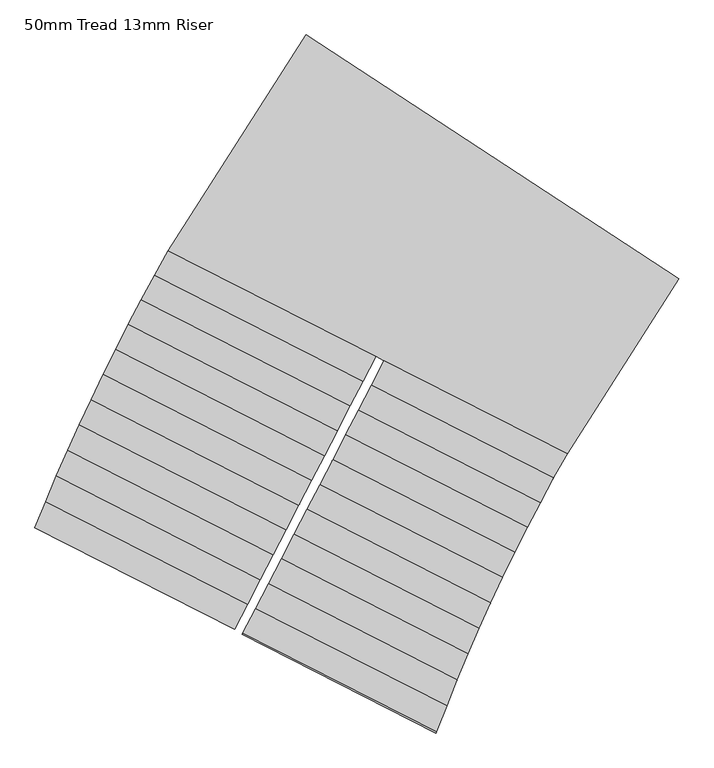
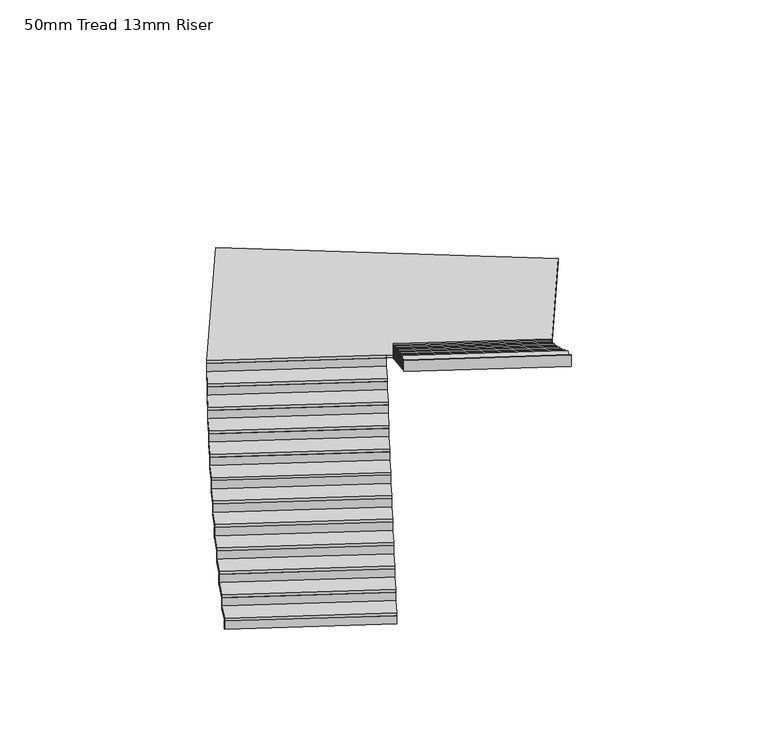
"""IFC4 building model written with IfcOpenShell, lengths in millimetres: stair flight geometry, 50mm Tread 13mm Riser."""

import ifcopenshell
import ifcopenshell.guid

model = None  # the IFC model being written
_history = None  # IfcOwnerHistory: only IFC2X3 demands one
_inside = {}  # id of a spatial element -> (the spatial element, [elements in it])
_under = {}  # id of a project, library or spatial element -> (it, [spatial elements below it])
_declared = {}  # id of a project -> (the project, [libraries it declares])
_typed = {}  # id of a type object -> (the type object, [elements of that type])
_made_of = {}  # id of a material, layer set ... -> (it, [elements and type objects made of it])


def new_model(schema):
    """Start an empty IFC model of exactly this schema.

    Asked for "IFC4X3", IfcOpenShell would pick the latest addendum, in which some entities
    have other attributes; the version numbers below select the first issue.
    IFC2X3 requires an IfcOwnerHistory on every rooted entity: one is made here for all.
    """
    global model, _history
    if schema == "IFC4X3":
        model = ifcopenshell.file(schema_version=(4, 3, 0, 0))
    else:
        model = ifcopenshell.file(schema=schema)
    _inside.clear()
    _under.clear()
    _declared.clear()
    _typed.clear()
    _made_of.clear()
    _history = None
    if model.schema == "IFC2X3":
        org = make("IfcOrganization", Name="unknown")
        user = make(
            "IfcPersonAndOrganization",
            ThePerson=make("IfcPerson", FamilyName="unknown"),
            TheOrganization=org,
        )
        app = make(
            "IfcApplication",
            ApplicationDeveloper=org,
            Version="unknown",
            ApplicationFullName="unknown",
            ApplicationIdentifier="unknown",
        )
        _history = make(
            "IfcOwnerHistory",
            OwningUser=user,
            OwningApplication=app,
            ChangeAction="ADDED",
            CreationDate=0,
        )
    return model


def make(cls, **values):
    """One entity of the class cls with the attributes given. An attribute that is None is left unset."""
    return model.create_entity(
        cls, **{name: value for name, value in values.items() if value is not None}
    )


def rooted(cls, **values):
    """An entity with a GlobalId (a new one), such as an element, a storey or a relation."""
    return make(cls, GlobalId=ifcopenshell.guid.new(), OwnerHistory=_history, **values)


def si_unit(unit_type, name, prefix=None):
    """IfcSIUnit, for example si_unit("LENGTHUNIT", "METRE", prefix="MILLI")."""
    return make("IfcSIUnit", UnitType=unit_type, Prefix=prefix, Name=name)


def assignment(units):
    """IfcUnitAssignment: the units of a project."""
    return None if units is None else make("IfcUnitAssignment", Units=units)


def point(xyz):
    """IfcCartesianPoint."""
    return None if xyz is None else make("IfcCartesianPoint", Coordinates=xyz)


def direction(xyz):
    """IfcDirection."""
    return None if xyz is None else make("IfcDirection", DirectionRatios=xyz)


def frame(location, z_axis=None, x_axis=None):
    """IfcAxis2Placement3D, a coordinate frame: its origin and axes. An axis left out is left unset."""
    return make(
        "IfcAxis2Placement3D",
        Location=point(location),
        Axis=direction(z_axis),
        RefDirection=direction(x_axis),
    )


def frame_2d(location, x_axis=None):
    """IfcAxis2Placement2D, a coordinate frame in the plane: its origin and x axis."""
    return make(
        "IfcAxis2Placement2D", Location=point(location), RefDirection=direction(x_axis)
    )


def origin():
    """The frame at (0, 0, 0) with its axes left unset."""
    return frame((0.0, 0.0, 0.0))


def origin_with_axes():
    """The frame at (0, 0, 0) with the z axis (0, 0, 1) and the x axis (1, 0, 0) written out."""
    return frame((0.0, 0.0, 0.0), z_axis=(0.0, 0.0, 1.0), x_axis=(1.0, 0.0, 0.0))


def place(relative_to, where):
    """IfcLocalPlacement: puts the frame where relative to a parent placement (None: the world)."""
    return make(
        "IfcLocalPlacement", PlacementRelTo=relative_to, RelativePlacement=where
    )


def context(
    kind, dimensions, precision=None, world=None, true_north=None, identifier=None
):
    """IfcGeometricRepresentationContext, for example the 3D "Model" context."""
    return make(
        "IfcGeometricRepresentationContext",
        ContextIdentifier=identifier,
        ContextType=kind,
        CoordinateSpaceDimension=dimensions,
        Precision=precision,
        WorldCoordinateSystem=world,
        TrueNorth=true_north,
    )


def project(units=None, contexts=None):
    """IfcProject with its units and contexts."""
    return rooted(
        "IfcProject",
        Name="project",
        RepresentationContexts=contexts,
        UnitsInContext=assignment(units),
    )


def spatial(cls, under=None, at=None, **own):
    """A site, building, storey or space (cls), placed at a placement, below another one or the project."""
    s = rooted(cls, ObjectPlacement=at, **own)
    if under is not None:
        _under.setdefault(under.id(), (under, []))[1].append(s)
    return s


def polyline(points):
    """IfcPolyline through the points."""
    return make("IfcPolyline", Points=[point(p) for p in points])


def circle_curve(where, radius):
    """IfcCircle in the frame where."""
    return make("IfcCircle", Position=where, Radius=radius)


def trimmed(basis, trim1, trim2, sense, master):
    """IfcTrimmedCurve: the piece of a basis curve between two trims."""
    return make(
        "IfcTrimmedCurve",
        BasisCurve=basis,
        Trim1=trim1,
        Trim2=trim2,
        SenseAgreement=sense,
        MasterRepresentation=master,
    )


def segment(curve, same_sense, transition):
    """IfcCompositeCurveSegment."""
    return make(
        "IfcCompositeCurveSegment",
        Transition=transition,
        SameSense=same_sense,
        ParentCurve=curve,
    )


def composite_curve(segments, self_intersect=None):
    """IfcCompositeCurve: segments joined end to end."""
    return make("IfcCompositeCurve", Segments=segments, SelfIntersect=self_intersect)


def outline(outer, holes=None, kind="AREA"):
    """IfcArbitraryClosedProfileDef: a profile drawn as a closed curve; with holes, ...WithVoids."""
    if holes is None:
        return make("IfcArbitraryClosedProfileDef", ProfileType=kind, OuterCurve=outer)
    return make(
        "IfcArbitraryProfileDefWithVoids",
        ProfileType=kind,
        OuterCurve=outer,
        InnerCurves=holes,
    )


def extrude(swept, where, along, depth):
    """IfcExtrudedAreaSolid: the profile swept, set in the frame where, extruded along a direction by depth."""
    return make(
        "IfcExtrudedAreaSolid",
        SweptArea=swept,
        Position=where,
        ExtrudedDirection=direction(along),
        Depth=depth,
    )


def shape(context_of_items, identifier, shape_type, items):
    """IfcShapeRepresentation: the items that make up one representation, for example the "Body"."""
    return make(
        "IfcShapeRepresentation",
        ContextOfItems=context_of_items,
        RepresentationIdentifier=identifier,
        RepresentationType=shape_type,
        Items=items,
    )


def source(mapping_origin, context_of_items, identifier, shape_type, items):
    """IfcRepresentationMap: a shape defined once, which mapped items show again and again."""
    return make(
        "IfcRepresentationMap",
        MappingOrigin=mapping_origin,
        MappedRepresentation=shape(context_of_items, identifier, shape_type, items),
    )


def transform(
    local_origin,
    x_axis=None,
    y_axis=None,
    z_axis=None,
    scale=None,
    scale2=None,
    scale3=None,
    uniform=True,
):
    """IfcCartesianTransformationOperator3D, or its non-uniform kind. x_axis, y_axis, z_axis: its Axis1, 2, 3."""
    if uniform:
        return make(
            "IfcCartesianTransformationOperator3D",
            Axis1=direction(x_axis),
            Axis2=direction(y_axis),
            LocalOrigin=point(local_origin),
            Scale=scale,
            Axis3=direction(z_axis),
        )
    return make(
        "IfcCartesianTransformationOperator3DnonUniform",
        Axis1=direction(x_axis),
        Axis2=direction(y_axis),
        LocalOrigin=point(local_origin),
        Scale=scale,
        Axis3=direction(z_axis),
        Scale2=scale2,
        Scale3=scale3,
    )


def mapped(mapping_source, mapping_target):
    """IfcMappedItem: shows the shape of a source again, moved by a transform."""
    return make(
        "IfcMappedItem", MappingSource=mapping_source, MappingTarget=mapping_target
    )


def made_of(thing, what):
    """Note that an element or type object is made of a material, layer set ...; save() writes the relation."""
    if what is not None:
        _made_of.setdefault(what.id(), (what, []))[1].append(thing)
    return thing


def element(
    cls,
    number,
    at=None,
    inside=None,
    cuts=None,
    type_object=None,
    material=None,
    context=None,
    identifier="Body",
    shape_type=None,
    held_by="IfcProductDefinitionShape",
    body=None,
    shapes=None,
    **own,
):
    """One element of the class cls, such as IfcWall. Its Tag is "e" and its number.

    at: its placement. inside: the storey or other place that contains it. cuts: it is an
    opening in that element (IfcRelVoidsElement). A single representation is given by context,
    identifier, shape_type and body (its items); several are given by shapes. held_by: the class
    of the entity that holds the representations. save() writes the other relations.
    """
    e = rooted(cls, Tag="e%d" % number, ObjectPlacement=at, **own)
    if body is not None:
        shapes = [shape(context, identifier, shape_type, body)]
    if shapes is not None:
        e.Representation = make(held_by, Representations=shapes)
    if inside is not None:
        _inside.setdefault(inside.id(), (inside, []))[1].append(e)
    if cuts is not None:
        rooted(
            "IfcRelVoidsElement", RelatingBuildingElement=cuts, RelatedOpeningElement=e
        )
    if type_object is not None:
        _typed.setdefault(type_object.id(), (type_object, []))[1].append(e)
    return made_of(e, material)


def aggregate(whole, parts):
    """IfcRelAggregates: a whole, such as a stair, and the parts it consists of."""
    return rooted("IfcRelAggregates", RelatingObject=whole, RelatedObjects=parts)


def save(model, path):
    """Write the relations noted so far, then the file.

    IfcRelAggregates (storeys below a building ...), IfcRelContainedInSpatialStructure (elements
    in a storey), IfcRelDefinesByType, IfcRelAssociatesMaterial and IfcRelDeclares: one each for
    every whole, place, type object, material and project.
    """
    for whole, parts in _under.values():
        aggregate(whole, parts)
    for where, things in _inside.values():
        rooted(
            "IfcRelContainedInSpatialStructure",
            RelatedElements=things,
            RelatingStructure=where,
        )
    for kind, things in _typed.values():
        rooted("IfcRelDefinesByType", RelatedObjects=things, RelatingType=kind)
    for what, things in _made_of.values():
        rooted("IfcRelAssociatesMaterial", RelatedObjects=things, RelatingMaterial=what)
    for by, libraries in _declared.values():
        rooted("IfcRelDeclares", RelatingContext=by, RelatedDefinitions=libraries)
    model.write(path)


def stair_flight_50mm_tread_13mm_riser_d2d38518(model_context):
    return source(origin(), model_context, "Body", "SweptSolid", [
        extrude(outline(composite_curve([segment(polyline([(7243.3997598, -26018.0316031), (7237.6463466, -26029.1292848), (5092.865947, -24939.2065624)]), True, "CONTINUOUS"), segment(trimmed(circle_curve(frame_2d((28463.2186017, -34366.1157481)), 25200.0), [point((5092.865947, -24939.2065624))], [point((5097.5624416, -24927.5717816))], False, "CARTESIAN"), True, "CONTINUOUS"), segment(polyline([(5097.5624416, -24927.5717816), (7243.3997598, -26018.0316031)]), True, "CONTINUOUS")], self_intersect=False)), origin_with_axes(), (0.0, 0.0, 1.0), 139.4736842),
        extrude(outline(composite_curve([segment(polyline([(5207.1231707, -24660.7551002), (7375.7282632, -25762.7849242), (7237.6463466, -26029.1292848), (5092.865947, -24939.2065624)]), True, "CONTINUOUS"), segment(trimmed(circle_curve(frame_2d((28463.2186017, -34366.1157481)), 25200.0), [point((5092.865947, -24939.2065624))], [point((5207.1231707, -24660.7551002))], False, "CARTESIAN"), True, "CONTINUOUS")], self_intersect=False)), frame((0.0, 0.0, 139.4736842), z_axis=(0.0, 0.0, 1.0), x_axis=(1.0, 0.0, 0.0)), (0.0, 0.0, 1.0), 50.0),
        extrude(outline(composite_curve([segment(polyline([(7381.4816764, -25751.6872425), (7375.7282632, -25762.7849242), (5207.1231707, -24660.7551002)]), True, "CONTINUOUS"), segment(trimmed(circle_curve(frame_2d((28463.2186017, -34366.1157481)), 25200.0), [point((5207.1231707, -24660.7551002))], [point((5211.9536288, -24649.1883962))], False, "CARTESIAN"), True, "CONTINUOUS"), segment(polyline([(5211.9536288, -24649.1883962), (7381.4816764, -25751.6872425)]), True, "CONTINUOUS")], self_intersect=False)), frame((0.0, 0.0, 139.4736842), z_axis=(0.0, 0.0, 1.0), x_axis=(1.0, 0.0, 0.0)), (0.0, 0.0, 1.0), 189.4736842),
        extrude(outline(composite_curve([segment(polyline([(5324.5912847, -24383.9353306), (7513.8101797, -25496.4405635), (7375.7282632, -25762.7849242), (5207.1231707, -24660.7551002)]), True, "CONTINUOUS"), segment(trimmed(circle_curve(frame_2d((28463.2186017, -34366.1157481)), 25200.0), [point((5207.1231707, -24660.7551002))], [point((5324.5912847, -24383.9353306))], False, "CARTESIAN"), True, "CONTINUOUS")], self_intersect=False)), frame((0.0, 0.0, 328.9473684), z_axis=(0.0, 0.0, 1.0), x_axis=(1.0, 0.0, 0.0)), (0.0, 0.0, 1.0), 50.0),
        extrude(outline(composite_curve([segment(polyline([(7519.5635929, -25485.3428818), (7513.8101797, -25496.4405635), (5324.5912847, -24383.9353306)]), True, "CONTINUOUS"), segment(trimmed(circle_curve(frame_2d((28463.2186017, -34366.1157481)), 25200.0), [point((5324.5912847, -24383.9353306))], [point((5329.5553484, -24372.4365216))], False, "CARTESIAN"), True, "CONTINUOUS"), segment(polyline([(5329.5553484, -24372.4365216), (7519.5635929, -25485.3428818)]), True, "CONTINUOUS")], self_intersect=False)), frame((0.0, 0.0, 328.9473684), z_axis=(0.0, 0.0, 1.0), x_axis=(1.0, 0.0, 0.0)), (0.0, 0.0, 1.0), 189.4736842),
        extrude(outline(composite_curve([segment(polyline([(5445.2623713, -24108.74323), (7651.8920962, -25230.0962028), (7513.8101797, -25496.4405635), (5324.5912847, -24383.9353306)]), True, "CONTINUOUS"), segment(trimmed(circle_curve(frame_2d((28463.2186017, -34366.1157481)), 25200.0), [point((5324.5912847, -24383.9353306))], [point((5445.2623713, -24108.74323))], False, "CARTESIAN"), True, "CONTINUOUS")], self_intersect=False)), frame((0.0, 0.0, 518.4210526), z_axis=(0.0, 0.0, 1.0), x_axis=(1.0, 0.0, 0.0)), (0.0, 0.0, 1.0), 50.0),
        extrude(outline(composite_curve([segment(polyline([(7657.6455094, -25218.9985211), (7651.8920962, -25230.0962028), (5445.2623713, -24108.74323)]), True, "CONTINUOUS"), segment(trimmed(circle_curve(frame_2d((28463.2186017, -34366.1157481)), 25200.0), [point((5445.2623713, -24108.74323))], [point((5450.3597409, -24097.3121637))], False, "CARTESIAN"), True, "CONTINUOUS"), segment(polyline([(5450.3597409, -24097.3121637), (7657.6455094, -25218.9985211)]), True, "CONTINUOUS")], self_intersect=False)), frame((0.0, 0.0, 518.4210526), z_axis=(0.0, 0.0, 1.0), x_axis=(1.0, 0.0, 0.0)), (0.0, 0.0, 1.0), 189.4736842),
        extrude(outline(composite_curve([segment(polyline([(5569.1299073, -23835.1754835), (7789.9740128, -24963.7518422), (7651.8920962, -25230.0962028), (5445.2623713, -24108.74323)]), True, "CONTINUOUS"), segment(trimmed(circle_curve(frame_2d((28463.2186017, -34366.1157481)), 25200.0), [point((5445.2623713, -24108.74323))], [point((5569.1299073, -23835.1754835))], False, "CARTESIAN"), True, "CONTINUOUS")], self_intersect=False)), frame((0.0, 0.0, 707.8947368), z_axis=(0.0, 0.0, 1.0), x_axis=(1.0, 0.0, 0.0)), (0.0, 0.0, 1.0), 50.0),
        extrude(outline(composite_curve([segment(polyline([(7795.727426, -24952.6541605), (7789.9740128, -24963.7518422), (5569.1299073, -23835.1754835)]), True, "CONTINUOUS"), segment(trimmed(circle_curve(frame_2d((28463.2186017, -34366.1157481)), 25200.0), [point((5569.1299073, -23835.1754835))], [point((5574.3603413, -23823.8120371))], False, "CARTESIAN"), True, "CONTINUOUS"), segment(polyline([(5574.3603413, -23823.8120371), (7795.727426, -24952.6541605)]), True, "CONTINUOUS")], self_intersect=False)), frame((0.0, 0.0, 707.8947368), z_axis=(0.0, 0.0, 1.0), x_axis=(1.0, 0.0, 0.0)), (0.0, 0.0, 1.0), 189.4736842),
        extrude(outline(composite_curve([segment(polyline([(5696.1887507, -23563.2294781), (7928.0559293, -24697.4074815), (7789.9740128, -24963.7518422), (5569.1299073, -23835.1754835)]), True, "CONTINUOUS"), segment(trimmed(circle_curve(frame_2d((28463.2186017, -34366.1157481)), 25200.0), [point((5569.1299073, -23835.1754835))], [point((5696.1887507, -23563.2294781))], False, "CARTESIAN"), True, "CONTINUOUS")], self_intersect=False)), frame((0.0, 0.0, 897.3684211), z_axis=(0.0, 0.0, 1.0), x_axis=(1.0, 0.0, 0.0)), (0.0, 0.0, 1.0), 50.0),
        extrude(outline(composite_curve([segment(polyline([(7933.8093425, -24686.3097998), (7928.0559293, -24697.4074815), (5696.1887507, -23563.2294781)]), True, "CONTINUOUS"), segment(trimmed(circle_curve(frame_2d((28463.2186017, -34366.1157481)), 25200.0), [point((5696.1887507, -23563.2294781))], [point((5701.5520644, -23551.9335578))], False, "CARTESIAN"), True, "CONTINUOUS"), segment(polyline([(5701.5520644, -23551.9335578), (7933.8093425, -24686.3097998)]), True, "CONTINUOUS")], self_intersect=False)), frame((0.0, 0.0, 897.3684211), z_axis=(0.0, 0.0, 1.0), x_axis=(1.0, 0.0, 0.0)), (0.0, 0.0, 1.0), 189.4736842),
        extrude(outline(composite_curve([segment(polyline([(5826.4351287, -23292.9032965), (8066.1378458, -24431.0631208), (7928.0559293, -24697.4074815), (5696.1887507, -23563.2294781)]), True, "CONTINUOUS"), segment(trimmed(circle_curve(frame_2d((28463.2186017, -34366.1157481)), 25200.0), [point((5696.1887507, -23563.2294781))], [point((5826.4351287, -23292.9032965))], False, "CARTESIAN"), True, "CONTINUOUS")], self_intersect=False)), frame((0.0, 0.0, 1086.8421053), z_axis=(0.0, 0.0, 1.0), x_axis=(1.0, 0.0, 0.0)), (0.0, 0.0, 1.0), 50.0),
        extrude(outline(composite_curve([segment(polyline([(8071.891259, -24419.9654391), (8066.1378458, -24431.0631208), (5826.4351287, -23292.9032965)]), True, "CONTINUOUS"), segment(trimmed(circle_curve(frame_2d((28463.2186017, -34366.1157481)), 25200.0), [point((5826.4351287, -23292.9032965))], [point((5831.9311946, -23281.6748375))], False, "CARTESIAN"), True, "CONTINUOUS"), segment(polyline([(5831.9311946, -23281.6748375), (8071.891259, -24419.9654391)]), True, "CONTINUOUS")], self_intersect=False)), frame((0.0, 0.0, 1086.8421053), z_axis=(0.0, 0.0, 1.0), x_axis=(1.0, 0.0, 0.0)), (0.0, 0.0, 1.0), 189.4736842),
        extrude(outline(composite_curve([segment(polyline([(5959.8666306, -23024.1957137), (8204.2197624, -24164.7187602), (8066.1378458, -24431.0631208), (5826.4351287, -23292.9032965)]), True, "CONTINUOUS"), segment(trimmed(circle_curve(frame_2d((28463.2186017, -34366.1157481)), 25200.0), [point((5826.4351287, -23292.9032965))], [point((5959.8666306, -23024.1957137))], False, "CARTESIAN"), True, "CONTINUOUS")], self_intersect=False)), frame((0.0, 0.0, 1276.3157895), z_axis=(0.0, 0.0, 1.0), x_axis=(1.0, 0.0, 0.0)), (0.0, 0.0, 1.0), 50.0),
        extrude(outline(composite_curve([segment(polyline([(8209.9731756, -24153.6210785), (8204.2197624, -24164.7187602), (5959.8666306, -23024.1957137)]), True, "CONTINUOUS"), segment(trimmed(circle_curve(frame_2d((28463.2186017, -34366.1157481)), 25200.0), [point((5959.8666306, -23024.1957137))], [point((5965.4953778, -23013.0346799))], False, "CARTESIAN"), True, "CONTINUOUS"), segment(polyline([(5965.4953778, -23013.0346799), (8209.9731756, -24153.6210785)]), True, "CONTINUOUS")], self_intersect=False)), frame((0.0, 0.0, 1276.3157895), z_axis=(0.0, 0.0, 1.0), x_axis=(1.0, 0.0, 0.0)), (0.0, 0.0, 1.0), 189.4736842),
        extrude(outline(composite_curve([segment(polyline([(6096.4822021, -22757.1061938), (8342.3016789, -23898.3743995), (8204.2197624, -24164.7187602), (5959.8666306, -23024.1957137)]), True, "CONTINUOUS"), segment(trimmed(circle_curve(frame_2d((28463.2186017, -34366.1157481)), 25200.0), [point((5959.8666306, -23024.1957137))], [point((6096.4822021, -22757.1061938))], False, "CARTESIAN"), True, "CONTINUOUS")], self_intersect=False)), frame((0.0, 0.0, 1465.7894737), z_axis=(0.0, 0.0, 1.0), x_axis=(1.0, 0.0, 0.0)), (0.0, 0.0, 1.0), 50.0),
        extrude(outline(composite_curve([segment(polyline([(8348.0550921, -23887.2767178), (8342.3016789, -23898.3743995), (6096.4822021, -22757.1061938)]), True, "CONTINUOUS"), segment(trimmed(circle_curve(frame_2d((28463.2186017, -34366.1157481)), 25200.0), [point((6096.4822021, -22757.1061938))], [point((6102.2436159, -22746.0125779))], False, "CARTESIAN"), True, "CONTINUOUS"), segment(polyline([(6102.2436159, -22746.0125779), (8348.0550921, -23887.2767178)]), True, "CONTINUOUS")], self_intersect=False)), frame((0.0, 0.0, 1465.7894737), z_axis=(0.0, 0.0, 1.0), x_axis=(1.0, 0.0, 0.0)), (0.0, 0.0, 1.0), 189.4736842),
        extrude(outline(composite_curve([segment(polyline([(6236.282143, -22491.6348894), (8480.3835954, -23632.0300388), (8342.3016789, -23898.3743995), (6096.4822021, -22757.1061938)]), True, "CONTINUOUS"), segment(trimmed(circle_curve(frame_2d((28463.2186017, -34366.1157481)), 25200.0), [point((6096.4822021, -22757.1061938))], [point((6236.282143, -22491.6348894))], False, "CARTESIAN"), True, "CONTINUOUS")], self_intersect=False)), frame((0.0, 0.0, 1655.2631579), z_axis=(0.0, 0.0, 1.0), x_axis=(1.0, 0.0, 0.0)), (0.0, 0.0, 1.0), 50.0),
        extrude(outline(composite_curve([segment(polyline([(8486.1370086, -23620.9323571), (8480.3835954, -23632.0300388), (6236.282143, -22491.6348894)]), True, "CONTINUOUS"), segment(trimmed(circle_curve(frame_2d((28463.2186017, -34366.1157481)), 25200.0), [point((6236.282143, -22491.6348894))], [point((6242.1762655, -22480.6087125))], False, "CARTESIAN"), True, "CONTINUOUS"), segment(polyline([(6242.1762655, -22480.6087125), (8486.1370086, -23620.9323571)]), True, "CONTINUOUS")], self_intersect=False)), frame((0.0, 0.0, 1655.2631579), z_axis=(0.0, 0.0, 1.0), x_axis=(1.0, 0.0, 0.0)), (0.0, 0.0, 1.0), 189.4736842),
        extrude(outline(composite_curve([segment(polyline([(6379.2681084, -22227.7826413), (8618.465512, -23365.6856782), (8480.3835954, -23632.0300388), (6236.282143, -22491.6348894)]), True, "CONTINUOUS"), segment(trimmed(circle_curve(frame_2d((28463.2186017, -34366.1157481)), 25200.0), [point((6236.282143, -22491.6348894))], [point((6379.2681084, -22227.7826413))], False, "CARTESIAN"), True, "CONTINUOUS")], self_intersect=False)), frame((0.0, 0.0, 1844.7368421), z_axis=(0.0, 0.0, 1.0), x_axis=(1.0, 0.0, 0.0)), (0.0, 0.0, 1.0), 50.0),
        extrude(outline(composite_curve([segment(polyline([(8624.2189252, -23354.5879965), (8618.465512, -23365.6856782), (6379.2681084, -22227.7826413)]), True, "CONTINUOUS"), segment(trimmed(circle_curve(frame_2d((28463.2186017, -34366.1157481)), 25200.0), [point((6379.2681084, -22227.7826413))], [point((6385.2950378, -22216.8239536))], False, "CARTESIAN"), True, "CONTINUOUS"), segment(polyline([(6385.2950378, -22216.8239536), (8624.2189252, -23354.5879965)]), True, "CONTINUOUS")], self_intersect=False)), frame((0.0, 0.0, 1844.7368421), z_axis=(0.0, 0.0, 1.0), x_axis=(1.0, 0.0, 0.0)), (0.0, 0.0, 1.0), 189.4736842),
        extrude(outline(composite_curve([segment(polyline([(6525.4431115, -21965.5509809), (8756.5474285, -23099.3413175), (8618.465512, -23365.6856782), (6379.2681084, -22227.7826413)]), True, "CONTINUOUS"), segment(trimmed(circle_curve(frame_2d((28463.2186017, -34366.1157481)), 25200.0), [point((6379.2681084, -22227.7826413))], [point((6525.4431115, -21965.5509809))], False, "CARTESIAN"), True, "CONTINUOUS")], self_intersect=False)), frame((0.0, 0.0, 2034.2105263), z_axis=(0.0, 0.0, 1.0), x_axis=(1.0, 0.0, 0.0)), (0.0, 0.0, 1.0), 50.0),
        extrude(outline(composite_curve([segment(polyline([(8762.2103549, -23088.1976527), (8756.5474285, -23099.3413175), (6525.4431115, -21965.5509809)]), True, "CONTINUOUS"), segment(trimmed(circle_curve(frame_2d((28463.2186017, -34366.1157481)), 25200.0), [point((6525.4431115, -21965.5509809))], [point((6531.603003, -21954.6598612))], False, "CARTESIAN"), True, "CONTINUOUS"), segment(polyline([(6531.603003, -21954.6598612), (8762.2103549, -23088.1976527)]), True, "CONTINUOUS")], self_intersect=False)), frame((0.0, 0.0, 2034.2105263), z_axis=(0.0, 0.0, 1.0), x_axis=(1.0, 0.0, 0.0)), (0.0, 0.0, 1.0), 189.4736842),
        extrude(outline(composite_curve([segment(polyline([(10811.4275189, -24143.5789946), (8845.6996858, -23144.6462219), (8756.5474285, -23099.3413175), (6525.4431115, -21965.5509809)]), True, "CONTINUOUS"), segment(trimmed(circle_curve(frame_2d((28463.2186017, -34366.1157481)), 25200.0), [point((6525.4431115, -21965.5509809))], [point((8007.113091, -19649.1953048))], False, "CARTESIAN"), True, "CONTINUOUS"), segment(polyline([(8007.113091, -19649.1953048), (12010.6232883, -22268.7232659)]), True, "CONTINUOUS"), segment(trimmed(circle_curve(frame_2d((29284.4488792, -34638.3554793)), 21246.0078989), [point((12010.6232883, -22268.7232659))], [point((10811.4275189, -24143.5789946))], True, "CARTESIAN"), True, "CONTINUOUS")], self_intersect=False)), frame((0.0, 0.0, 2223.6842105), z_axis=(0.0, 0.0, 1.0), x_axis=(1.0, 0.0, 0.0)), (0.0, 0.0, 1.0), 50.0),
        extrude(outline(composite_curve([segment(polyline([(8839.9462726, -23155.7439036), (8845.6996858, -23144.6462219), (10811.4275189, -24143.5789946)]), True, "CONTINUOUS"), segment(trimmed(circle_curve(frame_2d((29284.4488792, -34638.3554793)), 21246.0078989), [point((10811.4275189, -24143.5789946))], [point((10805.2495746, -24154.4609404))], True, "CARTESIAN"), True, "CONTINUOUS"), segment(polyline([(10805.2495746, -24154.4609404), (8839.9462726, -23155.7439036)]), True, "CONTINUOUS")], self_intersect=False)), frame((0.0, 0.0, 2223.6842105), z_axis=(0.0, 0.0, 1.0), x_axis=(1.0, 0.0, 0.0)), (0.0, 0.0, 1.0), 189.4736842),
        extrude(outline(composite_curve([segment(polyline([(10664.9711296, -24405.6676617), (8707.6177693, -23410.9905826), (8845.6996858, -23144.6462219), (10811.4275189, -24143.5789946)]), True, "CONTINUOUS"), segment(trimmed(circle_curve(frame_2d((29284.4488792, -34638.3554793)), 21246.0078989), [point((10811.4275189, -24143.5789946))], [point((10664.9711296, -24405.6676617))], True, "CARTESIAN"), True, "CONTINUOUS")], self_intersect=False)), frame((0.0, 0.0, 2413.1578947), z_axis=(0.0, 0.0, 1.0), x_axis=(1.0, 0.0, 0.0)), (0.0, 0.0, 1.0), 50.0),
        extrude(outline(composite_curve([segment(polyline([(8701.8643561, -23422.0882643), (8707.6177693, -23410.9905826), (10664.9711296, -24405.6676617)]), True, "CONTINUOUS"), segment(trimmed(circle_curve(frame_2d((29284.4488792, -34638.3554793)), 21246.0078989), [point((10664.9711296, -24405.6676617))], [point((10658.9509028, -24416.6297555))], True, "CARTESIAN"), True, "CONTINUOUS"), segment(polyline([(10658.9509028, -24416.6297555), (8701.8643561, -23422.0882643)]), True, "CONTINUOUS")], self_intersect=False)), frame((0.0, 0.0, 2413.1578947), z_axis=(0.0, 0.0, 1.0), x_axis=(1.0, 0.0, 0.0)), (0.0, 0.0, 1.0), 189.4736842),
        extrude(outline(composite_curve([segment(polyline([(10522.2973079, -24669.6785332), (8569.5358527, -23677.3349433), (8707.6177693, -23410.9905826), (10664.9711296, -24405.6676617)]), True, "CONTINUOUS"), segment(trimmed(circle_curve(frame_2d((29284.4488792, -34638.3554793)), 21246.0078989), [point((10664.9711296, -24405.6676617))], [point((10522.2973079, -24669.6785332))], True, "CARTESIAN"), True, "CONTINUOUS")], self_intersect=False)), frame((0.0, 0.0, 2602.6315789), z_axis=(0.0, 0.0, 1.0), x_axis=(1.0, 0.0, 0.0)), (0.0, 0.0, 1.0), 50.0),
        extrude(outline(composite_curve([segment(polyline([(8563.7824396, -23688.432625), (8569.5358527, -23677.3349433), (10522.2973079, -24669.6785332)]), True, "CONTINUOUS"), segment(trimmed(circle_curve(frame_2d((29284.4488792, -34638.3554793)), 21246.0078989), [point((10522.2973079, -24669.6785332))], [point((10516.4345844, -24680.7206662))], True, "CARTESIAN"), True, "CONTINUOUS"), segment(polyline([(10516.4345844, -24680.7206662), (8563.7824396, -23688.432625)]), True, "CONTINUOUS")], self_intersect=False)), frame((0.0, 0.0, 2602.6315789), z_axis=(0.0, 0.0, 1.0), x_axis=(1.0, 0.0, 0.0)), (0.0, 0.0, 1.0), 189.4736842),
        extrude(outline(composite_curve([segment(polyline([(10383.4020016, -24935.6095499), (8431.4539362, -23943.6793039), (8569.5358527, -23677.3349433), (10522.2973079, -24669.6785332)]), True, "CONTINUOUS"), segment(trimmed(circle_curve(frame_2d((29284.4488792, -34638.3554793)), 21246.0078989), [point((10522.2973079, -24669.6785332))], [point((10383.4020016, -24935.6095499))], True, "CARTESIAN"), True, "CONTINUOUS")], self_intersect=False)), frame((0.0, 0.0, 2792.1052632), z_axis=(0.0, 0.0, 1.0), x_axis=(1.0, 0.0, 0.0)), (0.0, 0.0, 1.0), 50.0),
        extrude(outline(composite_curve([segment(polyline([(8425.700523, -23954.7769856), (8431.4539362, -23943.6793039), (10383.4020016, -24935.6095499)]), True, "CONTINUOUS"), segment(trimmed(circle_curve(frame_2d((29284.4488792, -34638.3554793)), 21246.0078989), [point((10383.4020016, -24935.6095499))], [point((10377.6966618, -24946.7316613))], True, "CARTESIAN"), True, "CONTINUOUS"), segment(polyline([(10377.6966618, -24946.7316613), (8425.700523, -23954.7769856)]), True, "CONTINUOUS")], self_intersect=False)), frame((0.0, 0.0, 2792.1052632), z_axis=(0.0, 0.0, 1.0), x_axis=(1.0, 0.0, 0.0)), (0.0, 0.0, 1.0), 189.4736842),
        extrude(outline(composite_curve([segment(polyline([(10248.2834241, -25203.4598039), (8293.3720197, -24210.0236646), (8431.4539362, -23943.6793039), (10383.4020016, -24935.6095499)]), True, "CONTINUOUS"), segment(trimmed(circle_curve(frame_2d((29284.4488792, -34638.3554793)), 21246.0078989), [point((10383.4020016, -24935.6095499))], [point((10248.2834241, -25203.4598039))], True, "CARTESIAN"), True, "CONTINUOUS")], self_intersect=False)), frame((0.0, 0.0, 2981.5789474), z_axis=(0.0, 0.0, 1.0), x_axis=(1.0, 0.0, 0.0)), (0.0, 0.0, 1.0), 50.0),
        extrude(outline(composite_curve([segment(polyline([(8287.6186065, -24221.1213463), (8293.3720197, -24210.0236646), (10248.2834241, -25203.4598039)]), True, "CONTINUOUS"), segment(trimmed(circle_curve(frame_2d((29284.4488792, -34638.3554793)), 21246.0078989), [point((10248.2834241, -25203.4598039))], [point((10242.7354426, -25214.6618808))], True, "CARTESIAN"), True, "CONTINUOUS"), segment(polyline([(10242.7354426, -25214.6618808), (8287.6186065, -24221.1213463)]), True, "CONTINUOUS")], self_intersect=False)), frame((0.0, 0.0, 2981.5789474), z_axis=(0.0, 0.0, 1.0), x_axis=(1.0, 0.0, 0.0)), (0.0, 0.0, 1.0), 189.4736842),
        extrude(outline(composite_curve([segment(polyline([(10116.9420491, -25473.229536), (8155.2901031, -24476.3680253), (8293.3720197, -24210.0236646), (10248.2834241, -25203.4598039)]), True, "CONTINUOUS"), segment(trimmed(circle_curve(frame_2d((29284.4488792, -34638.3554793)), 21246.0078989), [point((10248.2834241, -25203.4598039))], [point((10116.9420491, -25473.229536))], True, "CARTESIAN"), True, "CONTINUOUS")], self_intersect=False)), frame((0.0, 0.0, 3171.0526316), z_axis=(0.0, 0.0, 1.0), x_axis=(1.0, 0.0, 0.0)), (0.0, 0.0, 1.0), 50.0),
        extrude(outline(composite_curve([segment(polyline([(8149.53669, -24487.4657069), (8155.2901031, -24476.3680253), (10116.9420491, -25473.229536)]), True, "CONTINUOUS"), segment(trimmed(circle_curve(frame_2d((29284.4488792, -34638.3554793)), 21246.0078989), [point((10116.9420491, -25473.229536))], [point((10111.5514947, -25484.5116133))], True, "CARTESIAN"), True, "CONTINUOUS"), segment(polyline([(10111.5514947, -25484.5116133), (8149.53669, -24487.4657069)]), True, "CONTINUOUS")], self_intersect=False)), frame((0.0, 0.0, 3171.0526316), z_axis=(0.0, 0.0, 1.0), x_axis=(1.0, 0.0, 0.0)), (0.0, 0.0, 1.0), 189.4736842),
        extrude(outline(composite_curve([segment(polyline([(9989.380612, -25744.9201361), (8017.2081866, -24742.7123859), (8155.2901031, -24476.3680253), (10116.9420491, -25473.229536)]), True, "CONTINUOUS"), segment(trimmed(circle_curve(frame_2d((29284.4488792, -34638.3554793)), 21246.0078989), [point((10116.9420491, -25473.229536))], [point((9989.380612, -25744.9201361))], True, "CARTESIAN"), True, "CONTINUOUS")], self_intersect=False)), frame((0.0, 0.0, 3360.5263158), z_axis=(0.0, 0.0, 1.0), x_axis=(1.0, 0.0, 0.0)), (0.0, 0.0, 1.0), 50.0),
        extrude(outline(composite_curve([segment(polyline([(8011.4547734, -24753.8100676), (8017.2081866, -24742.7123859), (9989.380612, -25744.9201361)]), True, "CONTINUOUS"), segment(trimmed(circle_curve(frame_2d((29284.4488792, -34638.3554793)), 21246.0078989), [point((9989.380612, -25744.9201361))], [point((9984.1476479, -25756.2822968))], True, "CARTESIAN"), True, "CONTINUOUS"), segment(polyline([(9984.1476479, -25756.2822968), (8011.4547734, -24753.8100676)]), True, "CONTINUOUS")], self_intersect=False)), frame((0.0, 0.0, 3360.5263158), z_axis=(0.0, 0.0, 1.0), x_axis=(1.0, 0.0, 0.0)), (0.0, 0.0, 1.0), 189.4736842),
        extrude(outline(composite_curve([segment(polyline([(9865.6041181, -26018.5341479), (7879.1262701, -25009.0567466), (8017.2081866, -24742.7123859), (9989.380612, -25744.9201361)]), True, "CONTINUOUS"), segment(trimmed(circle_curve(frame_2d((29284.4488792, -34638.3554793)), 21246.0078989), [point((9989.380612, -25744.9201361))], [point((9865.6041181, -26018.5341479))], True, "CARTESIAN"), True, "CONTINUOUS")], self_intersect=False)), frame((0.0, 0.0, 3550.0), z_axis=(0.0, 0.0, 1.0), x_axis=(1.0, 0.0, 0.0)), (0.0, 0.0, 1.0), 50.0),
        extrude(outline(composite_curve([segment(polyline([(7873.3728569, -25020.1544283), (7879.1262701, -25009.0567466), (9865.6041181, -26018.5341479)]), True, "CONTINUOUS"), segment(trimmed(circle_curve(frame_2d((29284.4488792, -34638.3554793)), 21246.0078989), [point((9865.6041181, -26018.5341479))], [point((9860.5290023, -26029.976523))], True, "CARTESIAN"), True, "CONTINUOUS"), segment(polyline([(9860.5290023, -26029.976523), (7873.3728569, -25020.1544283)]), True, "CONTINUOUS")], self_intersect=False)), frame((0.0, 0.0, 3550.0), z_axis=(0.0, 0.0, 1.0), x_axis=(1.0, 0.0, 0.0)), (0.0, 0.0, 1.0), 189.4736842),
        extrude(outline(composite_curve([segment(polyline([(9745.6198577, -26294.075276), (7741.0443535, -25275.4011072), (7879.1262701, -25009.0567466), (9865.6041181, -26018.5341479)]), True, "CONTINUOUS"), segment(trimmed(circle_curve(frame_2d((29284.4488792, -34638.3554793)), 21246.0078989), [point((9865.6041181, -26018.5341479))], [point((9745.6198577, -26294.075276))], True, "CARTESIAN"), True, "CONTINUOUS")], self_intersect=False)), frame((0.0, 0.0, 3739.4736842), z_axis=(0.0, 0.0, 1.0), x_axis=(1.0, 0.0, 0.0)), (0.0, 0.0, 1.0), 50.0),
        extrude(outline(composite_curve([segment(polyline([(7735.2909404, -25286.4987889), (7741.0443535, -25275.4011072), (9745.6198577, -26294.075276)]), True, "CONTINUOUS"), segment(trimmed(circle_curve(frame_2d((29284.4488792, -34638.3554793)), 21246.0078989), [point((9745.6198577, -26294.075276))], [point((9740.7029438, -26305.5980453))], True, "CARTESIAN"), True, "CONTINUOUS"), segment(polyline([(9740.7029438, -26305.5980453), (7735.2909404, -25286.4987889)]), True, "CONTINUOUS")], self_intersect=False)), frame((0.0, 0.0, 3739.4736842), z_axis=(0.0, 0.0, 1.0), x_axis=(1.0, 0.0, 0.0)), (0.0, 0.0, 1.0), 189.4736842),
        extrude(outline(composite_curve([segment(polyline([(9629.437428, -26571.5483976), (7602.962437, -25541.7454679), (7741.0443535, -25275.4011072), (9745.6198577, -26294.075276)]), True, "CONTINUOUS"), segment(trimmed(circle_curve(frame_2d((29284.4488792, -34638.3554793)), 21246.0078989), [point((9745.6198577, -26294.075276))], [point((9629.437428, -26571.5483976))], True, "CARTESIAN"), True, "CONTINUOUS")], self_intersect=False)), frame((0.0, 0.0, 3928.9473684), z_axis=(0.0, 0.0, 1.0), x_axis=(1.0, 0.0, 0.0)), (0.0, 0.0, 1.0), 50.0),
        extrude(outline(composite_curve([segment(polyline([(7597.2090238, -25552.8431496), (7602.962437, -25541.7454679), (9629.437428, -26571.5483976)]), True, "CONTINUOUS"), segment(trimmed(circle_curve(frame_2d((29284.4488792, -34638.3554793)), 21246.0078989), [point((9629.437428, -26571.5483976))], [point((9624.6791663, -26583.1517899))], True, "CARTESIAN"), True, "CONTINUOUS"), segment(polyline([(9624.6791663, -26583.1517899), (7597.2090238, -25552.8431496)]), True, "CONTINUOUS")], self_intersect=False)), frame((0.0, 0.0, 3928.9473684), z_axis=(0.0, 0.0, 1.0), x_axis=(1.0, 0.0, 0.0)), (0.0, 0.0, 1.0), 189.4736842),
        extrude(outline(composite_curve([segment(polyline([(9517.068762, -26850.9595767), (7464.8805205, -25808.0898286), (7602.962437, -25541.7454679), (9629.437428, -26571.5483976)]), True, "CONTINUOUS"), segment(trimmed(circle_curve(frame_2d((29284.4488792, -34638.3554793)), 21246.0078989), [point((9629.437428, -26571.5483976))], [point((9517.068762, -26850.9595767))], True, "CARTESIAN"), True, "CONTINUOUS")], self_intersect=False)), frame((0.0, 0.0, 4118.4210526), z_axis=(0.0, 0.0, 1.0), x_axis=(1.0, 0.0, 0.0)), (0.0, 0.0, 1.0), 50.0),
        extrude(outline(composite_curve([segment(polyline([(7459.1271073, -25819.1875103), (7464.8805205, -25808.0898286), (9517.068762, -26850.9595767)]), True, "CONTINUOUS"), segment(trimmed(circle_curve(frame_2d((29284.4488792, -34638.3554793)), 21246.0078989), [point((9517.068762, -26850.9595767))], [point((9512.469701, -26862.6438708))], True, "CARTESIAN"), True, "CONTINUOUS"), segment(polyline([(9512.469701, -26862.6438708), (7459.1271073, -25819.1875103)]), True, "CONTINUOUS")], self_intersect=False)), frame((0.0, 0.0, 4118.4210526), z_axis=(0.0, 0.0, 1.0), x_axis=(1.0, 0.0, 0.0)), (0.0, 0.0, 1.0), 189.4736842),
        extrude(outline(composite_curve([segment(polyline([(7321.0451908, -26085.5318709), (7326.7986039, -26074.4341892), (9408.5281654, -27132.316083)]), True, "CONTINUOUS"), segment(trimmed(circle_curve(frame_2d((29284.4488792, -34638.3554793)), 21246.0078989), [point((9408.5281654, -27132.316083))], [point((9404.0889532, -27144.0816082))], True, "CARTESIAN"), True, "CONTINUOUS"), segment(polyline([(9404.0889532, -27144.0816082), (7321.0451908, -26085.5318709)]), True, "CONTINUOUS")], self_intersect=False)), frame((0.0, 0.0, 4307.8947368), z_axis=(0.0, 0.0, 1.0), x_axis=(1.0, 0.0, 0.0)), (0.0, 0.0, 1.0), 189.4736842),
        extrude(outline(composite_curve([segment(polyline([(9408.5281654, -27132.316083), (7326.7986039, -26074.4341892), (7464.8805205, -25808.0898286), (9517.068762, -26850.9595767)]), True, "CONTINUOUS"), segment(trimmed(circle_curve(frame_2d((29284.4488792, -34638.3554793)), 21246.0078989), [point((9517.068762, -26850.9595767))], [point((9408.5281654, -27132.316083))], True, "CARTESIAN"), True, "CONTINUOUS")], self_intersect=False)), frame((0.0, 0.0, 4307.8947368), z_axis=(0.0, 0.0, 1.0), x_axis=(1.0, 0.0, 0.0)), (0.0, 0.0, 1.0), 50.0),
    ])


if __name__ == "__main__":
    model = new_model("IFC4")
    model_context = context("Model", 3, world=origin())
    ifc_project = project(units=[si_unit("LENGTHUNIT", "METRE", prefix="MILLI")], contexts=[model_context])
    site = spatial("IfcSite", under=ifc_project)
    building = spatial("IfcBuilding", under=site)
    placement = place(None, origin())
    stair_flight_50mm_tread_13mm_riser_shape = stair_flight_50mm_tread_13mm_riser_d2d38518(model_context)
    element("IfcStairFlight", 1, ObjectType="50mm Tread 13mm Riser", at=placement, inside=building, context=model_context, shape_type="MappedRepresentation", body=[
        mapped(stair_flight_50mm_tread_13mm_riser_shape, transform((0.0, 0.0, 0.0), x_axis=(1.0, 0.0, 0.0), y_axis=(0.0, 1.0, 0.0), z_axis=(0.0, 0.0, 1.0))),
    ])
    save(model, "model.ifc")
